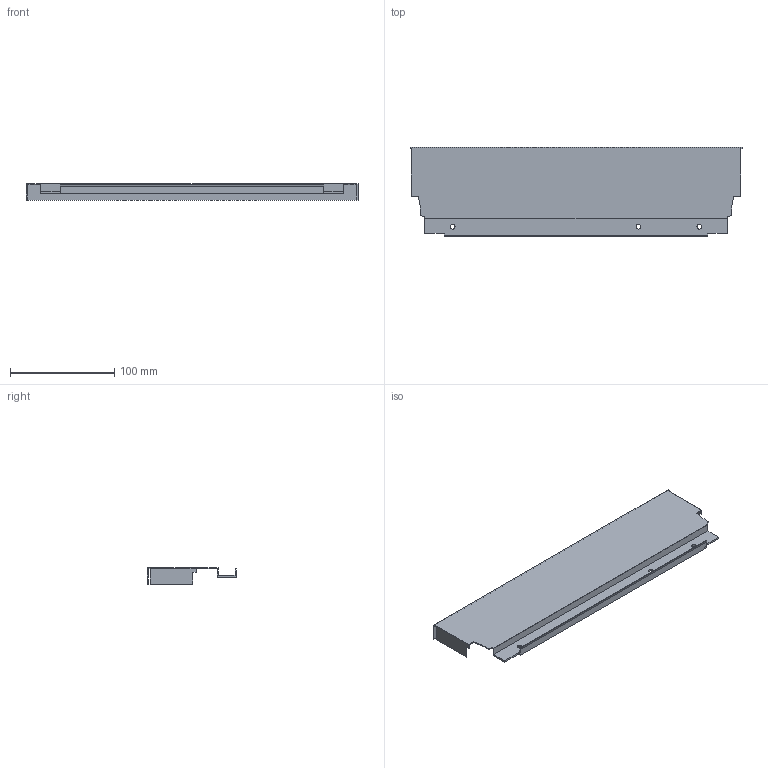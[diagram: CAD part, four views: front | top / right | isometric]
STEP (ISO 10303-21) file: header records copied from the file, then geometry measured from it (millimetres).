
FILE_DESCRIPTION (( 'STEP AP214' ), '1' );
FILE_NAME ('_DWD_XP Stahlrückwand_H86_KAB400_S16.step', '2010-07-08T12:09:53', ( 'grass' ), ( '' ), 'SwSTEP 2.0', 'SolidWorks 2010', '' );
FILE_SCHEMA (( 'AUTOMOTIVE_DESIGN' ));
Length unit declared in the file: millimetre
Products named in the file (1): _DWD_XP Stahlrückwand_H86_KAB400_S16
Bounding box: 319 x 85.79 x 16 mm (x, y, z)
Volume: 33554.8 mm3; surface area: 73706.8 mm2
Topology: 1 solids, 1 shells, 50 faces, 144 edges, 96 vertices
Faces by surface type: plane 44, cylinder 6
Entity records: 1666 total; most frequent: CARTESIAN_POINT 291, ORIENTED_EDGE 288, DIRECTION 258, EDGE_CURVE 144, VECTOR 132, LINE 132, VERTEX_POINT 96, AXIS2_PLACEMENT_3D 63
